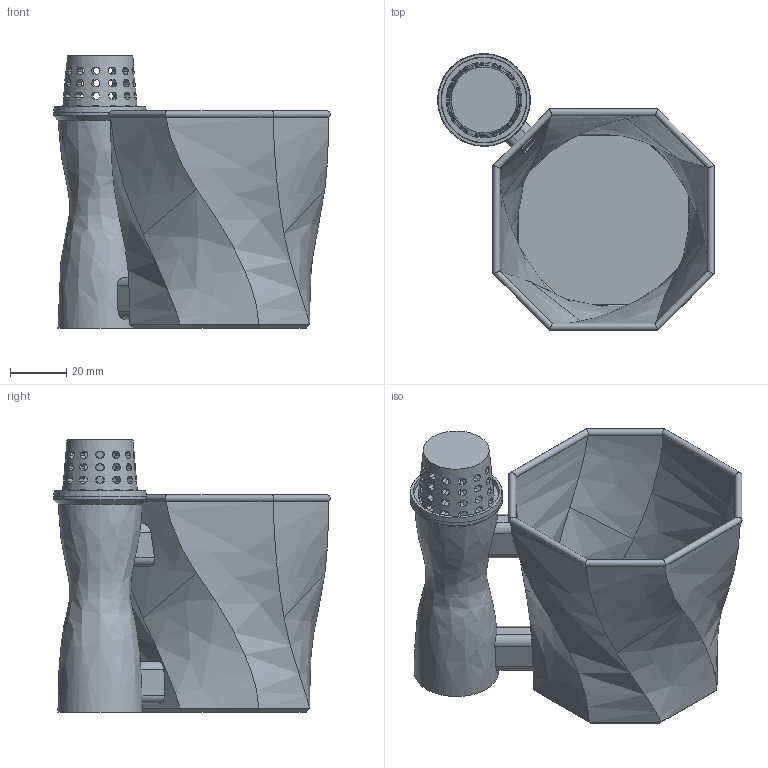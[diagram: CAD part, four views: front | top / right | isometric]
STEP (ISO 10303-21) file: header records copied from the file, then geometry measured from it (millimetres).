
FILE_DESCRIPTION(/* description */ (''),/* implementation_level */ '2;1');
FILE_NAME(/* name */ 'D:/Documents/3D/Garden/vase ladder/Cutomizers/Daisy.step',/* time_stamp */ '2021-04-07T18:58:41-04:00',/* author */ (''),/* organization */ (''),/* preprocessor_version */ 'ST-DEVELOPER v18.1',/* originating_system */ 'Autodesk Translation Framework v10.6.0.1341',/* authorisation */ '');
FILE_SCHEMA (('AUTOMOTIVE_DESIGN { 1 0 10303 214 3 1 1 }'));
Length unit declared in the file: millimetre
Products named in the file (1): Tower_Vase_A
Bounding box: 98.6 x 98.6 x 97 mm (x, y, z)
Volume: 43726.2 mm3; surface area: 61401.4 mm2
Topology: 1 solids, 1 shells, 512 faces, 1579 edges, 1056 vertices
Faces by surface type: plane 435, bspline 47, cylinder 25, cone 5
Full cylindrical faces by diameter (mm): 33 x1
Entity records: 21930 total; most frequent: CARTESIAN_POINT 7505, ORIENTED_EDGE 3158, DIRECTION 2954, EDGE_CURVE 1579, AXIS2_PLACEMENT_3D 1136, VERTEX_POINT 1056, LINE 682, VECTOR 682
